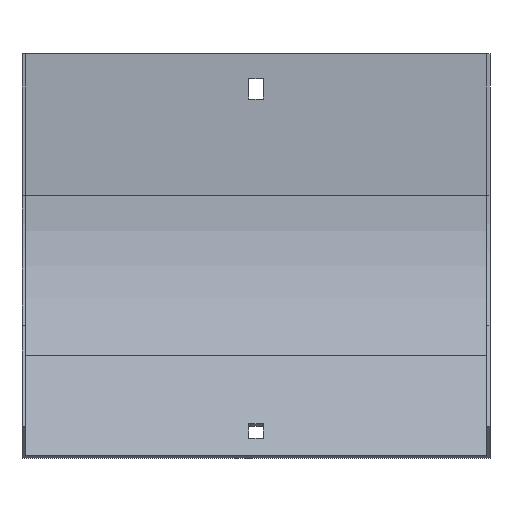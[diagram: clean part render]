
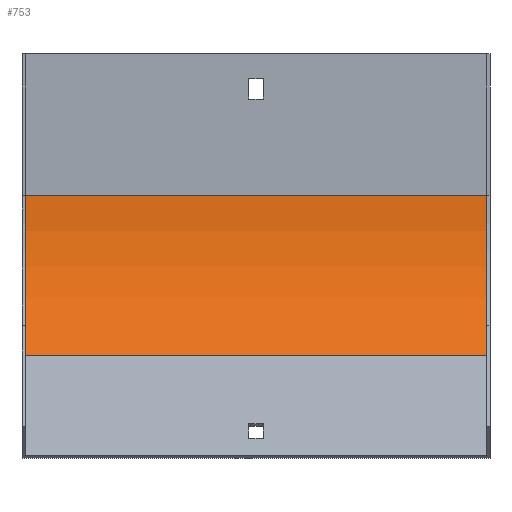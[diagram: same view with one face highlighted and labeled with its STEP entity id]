
A CAD part, front view. The second image highlights one B-rep face of the part: STEP entity #753.
In plain terms, the highlighted cylindrical face has radius 100 mm (diameter 200 mm), a partial arc.
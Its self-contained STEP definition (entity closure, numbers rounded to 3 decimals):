
#12 = LINE ( 'NONE', #350, #34 ) ;
#34 = VECTOR ( 'NONE', #164, 1000. ) ;
#39 = EDGE_CURVE ( 'NONE', #765, #739, #376, .T. ) ;
#42 = VERTEX_POINT ( 'NONE', #56 ) ;
#44 = CARTESIAN_POINT ( 'NONE',  ( -102., -101.5, -62.73 ) ) ;
#45 = VECTOR ( 'NONE', #719, 1000. ) ;
#56 = CARTESIAN_POINT ( 'NONE',  ( 102., -1.5, -62.73 ) ) ;
#118 = CARTESIAN_POINT ( 'NONE',  ( 102., -101.5, -62.73 ) ) ;
#164 = DIRECTION ( 'NONE',  ( -1., 0., 0. ) ) ;
#172 = DIRECTION ( 'NONE',  ( 1., 0., 0. ) ) ;
#175 = CARTESIAN_POINT ( 'NONE',  ( 103.5, -30.789, -133.441 ) ) ;
#186 = CIRCLE ( 'NONE', #699, 100. ) ;
#212 = ORIENTED_EDGE ( 'NONE', *, *, #843, .F. ) ;
#230 = DIRECTION ( 'NONE',  ( -1., 0., 0. ) ) ;
#246 = AXIS2_PLACEMENT_3D ( 'NONE', #44, #172, #310 ) ;
#296 = CARTESIAN_POINT ( 'NONE',  ( -102., -30.789, -133.441 ) ) ;
#310 = DIRECTION ( 'NONE',  ( 0., 0., 1. ) ) ;
#324 = EDGE_CURVE ( 'NONE', #42, #683, #12, .T. ) ;
#350 = CARTESIAN_POINT ( 'NONE',  ( 103.5, -1.5, -62.73 ) ) ;
#376 = LINE ( 'NONE', #175, #45 ) ;
#378 = DIRECTION ( 'NONE',  ( 1., 0., 0. ) ) ;
#391 = CARTESIAN_POINT ( 'NONE',  ( 102., -30.789, -133.441 ) ) ;
#394 = EDGE_LOOP ( 'NONE', ( #212, #758, #533, #491 ) ) ;
#448 = CARTESIAN_POINT ( 'NONE',  ( 103.5, -101.5, -62.73 ) ) ;
#469 = CYLINDRICAL_SURFACE ( 'NONE', #514, 100. ) ;
#491 = ORIENTED_EDGE ( 'NONE', *, *, #324, .T. ) ;
#514 = AXIS2_PLACEMENT_3D ( 'NONE', #448, #230, #788 ) ;
#518 = DIRECTION ( 'NONE',  ( 0., 0., 1. ) ) ;
#533 = ORIENTED_EDGE ( 'NONE', *, *, #820, .T. ) ;
#630 = CIRCLE ( 'NONE', #246, 100. ) ;
#683 = VERTEX_POINT ( 'NONE', #684 ) ;
#684 = CARTESIAN_POINT ( 'NONE',  ( -102., -1.5, -62.73 ) ) ;
#699 = AXIS2_PLACEMENT_3D ( 'NONE', #118, #378, #518 ) ;
#706 = FACE_OUTER_BOUND ( 'NONE', #394, .T. ) ;
#719 = DIRECTION ( 'NONE',  ( -1., 0., 0. ) ) ;
#739 = VERTEX_POINT ( 'NONE', #296 ) ;
#753 = ADVANCED_FACE ( 'NONE', ( #706 ), #469, .F. ) ;
#758 = ORIENTED_EDGE ( 'NONE', *, *, #39, .F. ) ;
#765 = VERTEX_POINT ( 'NONE', #391 ) ;
#788 = DIRECTION ( 'NONE',  ( 0., 0., 1. ) ) ;
#820 = EDGE_CURVE ( 'NONE', #765, #42, #186, .T. ) ;
#843 = EDGE_CURVE ( 'NONE', #739, #683, #630, .T. ) ;
